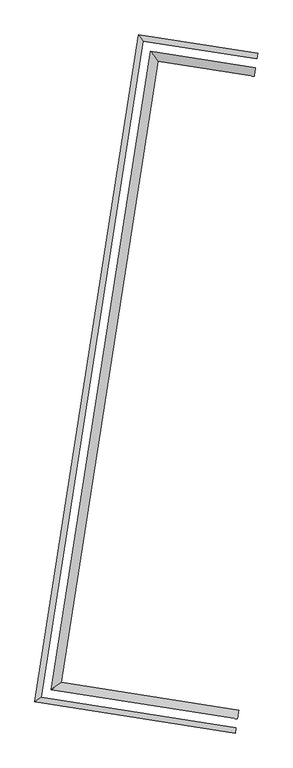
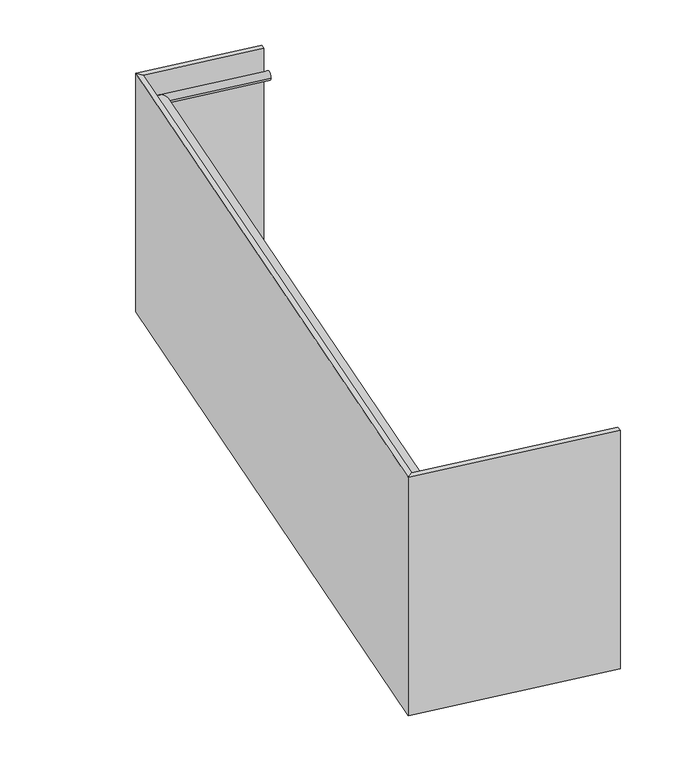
"""IFC4 building model written with IfcOpenShell, lengths in millimetres: railing geometry, Panel de vidrio - balcón."""

from ifc_helpers import new_model, si_unit, frame, origin, place, context, project, spatial, circle_curve, ellipse_curve, faceted_brep, source, transform, mapped, element, save
from ifc_brep_helpers import plane_surface, cylinder_surface, advanced_brep


def railing_8bb3bac0(model_context):
    return source(origin(), model_context, "Body", "SolidModel", [
        faceted_brep([(-48417.3698558, -53654.4269336, 13745.385397), (-48417.3698558, -53654.4269336, 12545.385397), (-48413.5196088, -53629.7252009, 12545.385397), (-48413.5196088, -53629.7252009, 13745.385397), (-49314.5463349, -53489.2826062, 13745.385397), (-49343.0983146, -53510.1340919, 13745.385397), (-49314.5463349, -53489.2826062, 12545.385397), (-49343.0983146, -53510.1340919, 12545.385397), (-48842.6888994, -50462.0232282, 13745.385397), (-48863.5403851, -50433.4712486, 13745.385397), (-48842.6888994, -50462.0232282, 12545.385397), (-48863.5403851, -50433.4712486, 12545.385397), (-48313.2782597, -50519.2403367, 13745.385397), (-48317.1285067, -50543.9420694, 13745.385397), (-48317.1285067, -50543.9420694, 12545.385397), (-48313.2782597, -50519.2403367, 12545.385397)], [[[0, 1, 2, 3]], [[0, 3, 4, 5]], [[3, 2, 6, 4]], [[2, 1, 7, 6]], [[1, 0, 5, 7]], [[5, 4, 8, 9]], [[4, 6, 10, 8]], [[6, 7, 11, 10]], [[7, 5, 9, 11]], [[12, 13, 14, 15]], [[9, 8, 13, 12]], [[8, 10, 14, 13]], [[10, 11, 15, 14]], [[11, 9, 12, 15]]]),
        advanced_brep(
        [(-48400.9052133, -53548.7959967, 13650.0), (-48407.0656085, -53588.318769, 13650.0), (-49266.6859028, -53454.3301745, 13650.0), (-49221.0027353, -53420.9677974, 13650.0), (-48807.7364677, -50509.8836604, 13650.0), (-48774.3740906, -50555.5668279, 13650.0), (-48329.7429022, -50624.8712736, 13650.0), (-48323.582507, -50585.3485013, 13650.0)],
        [
            (0, 1, circle_curve(frame((-48403.9854109, -53568.5573829, 13650.0), z_axis=(0.9880693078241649, -0.15400987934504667, 0.0), x_axis=(-0.15400987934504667, -0.9880693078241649, 0.0)), 20.0)),
            (1, 0, circle_curve(frame((-48403.9854109, -53568.5573829, 13650.0), z_axis=(0.9880693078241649, -0.15400987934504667, 0.0), x_axis=(-0.15400987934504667, -0.9880693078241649, 0.0)), 20.0)),
            (1, 2),
            (2, 3, ellipse_curve(frame((-49243.844319, -53437.648986, 13650.0), z_axis=(0.5897690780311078, -0.8075719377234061, 0.0), x_axis=(0.8075719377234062, 0.5897690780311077, 0.0)), 28.2842712, 20.0)),
            (3, 0),
            (3, 2, ellipse_curve(frame((-49243.844319, -53437.648986, 13650.0), z_axis=(0.5897690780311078, -0.8075719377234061, 0.0), x_axis=(0.8075719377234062, 0.5897690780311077, 0.0)), 28.2842712, 20.0)),
            (2, 4),
            (4, 5, ellipse_curve(frame((-48791.0552792, -50532.7252441, 13650.0), z_axis=(-0.8075719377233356, -0.5897690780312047, 0.0), x_axis=(0.5897690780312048, -0.8075719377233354, 0.0)), 28.2842713, 20.0)),
            (5, 3),
            (5, 4, ellipse_curve(frame((-48791.0552792, -50532.7252441, 13650.0), z_axis=(-0.8075719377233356, -0.5897690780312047, 0.0), x_axis=(0.5897690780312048, -0.8075719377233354, 0.0)), 28.2842713, 20.0)),
            (6, 7, circle_curve(frame((-48326.6627046, -50605.1098874, 13650.0), z_axis=(0.9880693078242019, -0.1540098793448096, 0.0), x_axis=(0.1540098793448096, 0.9880693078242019, 0.0)), 20.0)),
            (7, 6, circle_curve(frame((-48326.6627046, -50605.1098874, 13650.0), z_axis=(0.9880693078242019, -0.1540098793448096, 0.0), x_axis=(0.1540098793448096, 0.9880693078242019, 0.0)), 20.0)),
            (4, 7),
            (6, 5),
        ],
        [
            plane_surface(frame((-48403.9854109, -53568.5573829, 13650.0), z_axis=(0.9880693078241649, -0.15400987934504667, 0.0), x_axis=(0.15400987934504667, 0.9880693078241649, 0.0))),
            cylinder_surface(frame((-48403.9854109, -53568.5573829, 13650.0), z_axis=(0.9880693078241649, -0.15400987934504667, 0.0), x_axis=(-0.15400987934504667, -0.9880693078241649, 0.0)), 20.0),
            cylinder_surface(frame((-49243.844319, -53437.648986, 13650.0), z_axis=(-0.15400987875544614, -0.9880693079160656, 0.0), x_axis=(-0.9880693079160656, 0.15400987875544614, 0.0)), 20.0),
            plane_surface(frame((-48326.6627046, -50605.1098874, 13650.0), z_axis=(0.9880693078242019, -0.15400987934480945, 0.0), x_axis=(0.15400987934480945, 0.9880693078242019, 0.0))),
            cylinder_surface(frame((-48791.0552792, -50532.7252441, 13650.0), z_axis=(-0.9880693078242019, 0.1540098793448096, 0.0), x_axis=(0.1540098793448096, 0.9880693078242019, 0.0)), 20.0),
        ],
        [
            (0, [[1, 2]]),
            (1, [[-2, 3, 4, 5]]),
            (1, [[-1, -5, 6, -3]]),
            (2, [[-4, 7, 8, 9]]),
            (2, [[-6, -9, 10, -7]]),
            (3, [[11, 12]]),
            (4, [[-8, 13, -11, 14]]),
            (4, [[-10, -14, -12, -13]]),
        ],
    ),
    ])


if __name__ == "__main__":
    model = new_model("IFC4")
    model_context = context("Model", 3, world=origin())
    ifc_project = project(units=[si_unit("LENGTHUNIT", "METRE", prefix="MILLI")], contexts=[model_context])
    site = spatial("IfcSite", under=ifc_project)
    building = spatial("IfcBuilding", under=site)
    placement = place(None, origin())
    railing_shape = railing_8bb3bac0(model_context)
    element("IfcRailing", 1, ObjectType="Panel de vidrio - balcón", at=placement, inside=building, context=model_context, shape_type="MappedRepresentation", body=[
        mapped(railing_shape, transform((0.0, 0.0, 0.0), x_axis=(1.0, 0.0, 0.0), y_axis=(0.0, 1.0, 0.0), z_axis=(0.0, 0.0, 1.0))),
    ])
    save(model, "model.ifc")
